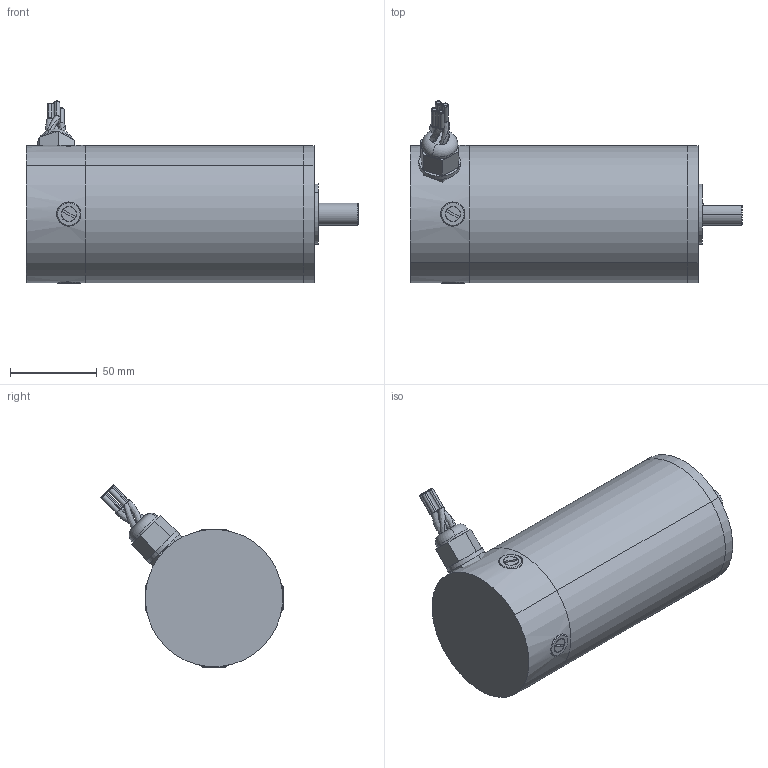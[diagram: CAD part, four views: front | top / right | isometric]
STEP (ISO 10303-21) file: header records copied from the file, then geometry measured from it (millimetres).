
FILE_DESCRIPTION (( 'STEP AP203' ), '1' );
FILE_NAME ('d33655a.step', '2018-12-07T18:49:14', ( '' ), ( '' ), 'SwSTEP 2.0', 'SolidWorks 2017', '' );
FILE_SCHEMA (( 'CONFIG_CONTROL_DESIGN' ));
Length unit declared in the file: inch
Products named in the file (1): d33655a
Bounding box: 191.77 x 105.19 x 105.19 mm (x, y, z)
Volume: 838420.8 mm3; surface area: 92238.1 mm2
Topology: 12 solids, 12 shells, 325 faces, 726 edges, 437 vertices
Faces by surface type: plane 152, cylinder 107, torus 31, cone 19, bspline 8, sphere 8
Entity records: 9990 total; most frequent: CARTESIAN_POINT 2537, DIRECTION 1703, ORIENTED_EDGE 1436, EDGE_CURVE 718, AXIS2_PLACEMENT_3D 711, VERTEX_POINT 437, CIRCLE 393, EDGE_LOOP 363
